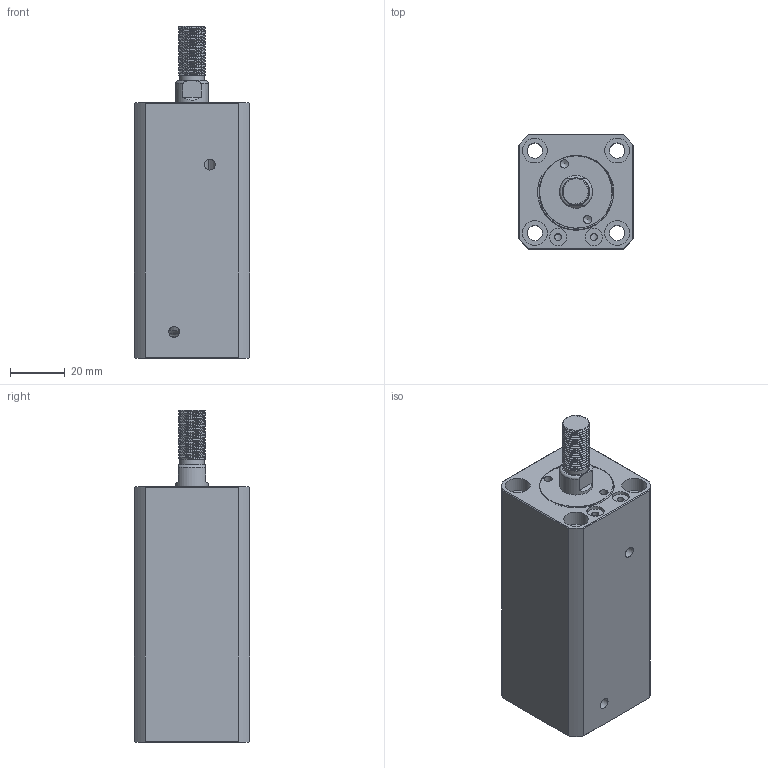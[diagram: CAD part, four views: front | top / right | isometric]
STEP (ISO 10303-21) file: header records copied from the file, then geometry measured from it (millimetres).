
FILE_DESCRIPTION(/* description */ (''),/* implementation_level */ '2;1');
FILE_NAME(/* name */ 'CHTB-sdma20x50w.stp',/* time_stamp */ '2022-04-29T15:54:15+08:00',/* author */ (''),/* organization */ (''),/* preprocessor_version */ 'ST-DEVELOPER v16.7',/* originating_system */ 'SIEMENS PLM Software NX 12.0',/* authorisation */ '');
FILE_SCHEMA (('AUTOMOTIVE_DESIGN { 1 0 10303 214 3 1 1 1 }'));
Length unit declared in the file: millimetre
Products named in the file (1): CHTB-sdma20x50w
Bounding box: 42 x 42 x 121 mm (x, y, z)
Volume: 140456.9 mm3; surface area: 42066.7 mm2
Topology: 3 solids, 3 shells, 515 faces, 1469 edges, 1008 vertices
Faces by surface type: plane 316, extrusion 113, cylinder 52, torus 18, bspline 13, cone 3
Full cylindrical faces by diameter (mm): 2.5 x2, 3 x2, 4 x2, 5.6 x4, 6.3 x2, 9 x9, 12 x2, 16 x2, 18 x1, 20 x5, 26.5 x9
Entity records: 27429 total; most frequent: CARTESIAN_POINT 12509, ORIENTED_EDGE 2762, DIRECTION 1954, EDGE_CURVE 1381, VECTOR 994, VERTEX_POINT 985, LINE 881, EDGE_LOOP 626
